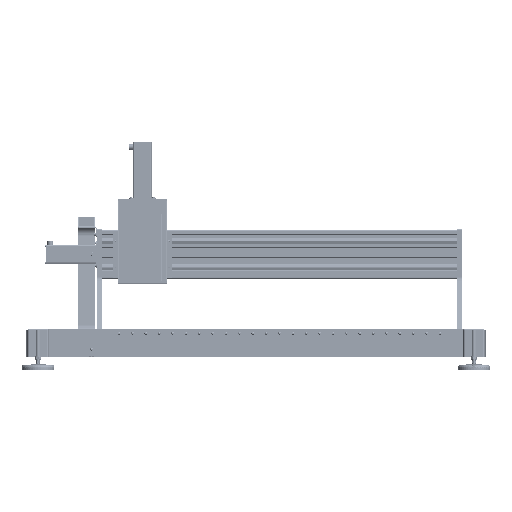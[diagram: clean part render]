
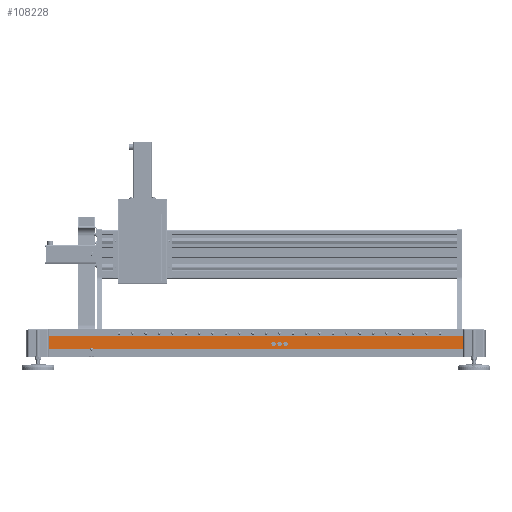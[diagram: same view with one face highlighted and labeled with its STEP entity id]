
A CAD part, top view. The second image highlights one B-rep face of the part: STEP entity #108228.
In plain terms, the highlighted planar face has unit normal (0, 0, 1).
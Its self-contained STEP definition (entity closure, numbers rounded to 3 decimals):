
#1757 = DIRECTION ( 'NONE',  ( 1., 0., 0. ) ) ;
#7940 = CARTESIAN_POINT ( 'NONE',  ( 88., 96., 891. ) ) ;
#25509 = CARTESIAN_POINT ( 'NONE',  ( 775., 124.7, 891. ) ) ;
#37557 = CARTESIAN_POINT ( 'NONE',  ( 94., 96., 891. ) ) ;
#39878 = EDGE_LOOP ( 'NONE', ( #226831 ) ) ;
#55976 = DIRECTION ( 'NONE',  ( 1., 0., 0. ) ) ;
#59882 = EDGE_CURVE ( 'NONE', #422074, #476441, #449475, .T. ) ;
#63458 = ORIENTED_EDGE ( 'NONE', *, *, #171634, .T. ) ;
#81825 = CARTESIAN_POINT ( 'NONE',  ( 775., 50., 891. ) ) ;
#92655 = DIRECTION ( 'NONE',  ( 0., 0., 1. ) ) ;
#108228 = ADVANCED_FACE ( 'NONE', ( #241639, #242732, #241061, #240447 ), #286479, .T. ) ;
#129936 = DIRECTION ( 'NONE',  ( 0., 1., 0. ) ) ;
#130927 = EDGE_LOOP ( 'NONE', ( #360257 ) ) ;
#133586 = VERTEX_POINT ( 'NONE', #264954 ) ;
#140271 = DIRECTION ( 'NONE',  ( -1., 0., 0. ) ) ;
#144740 = DIRECTION ( 'NONE',  ( 0., 1., 0. ) ) ;
#145083 = CARTESIAN_POINT ( 'NONE',  ( 110.5, 96., 891. ) ) ;
#153671 = VERTEX_POINT ( 'NONE', #25509 ) ;
#154928 = CARTESIAN_POINT ( 'NONE',  ( 775., 75.3, 891. ) ) ;
#164547 = DIRECTION ( 'NONE',  ( 0., 0., 1. ) ) ;
#171634 = EDGE_CURVE ( 'NONE', #422074, #153671, #336079, .T. ) ;
#185866 = EDGE_LOOP ( 'NONE', ( #457135 ) ) ;
#193171 = DIRECTION ( 'NONE',  ( 1., 0., 0. ) ) ;
#193269 = AXIS2_PLACEMENT_3D ( 'NONE', #145083, #480208, #193171 ) ;
#203116 = DIRECTION ( 'NONE',  ( -1., 0., 0. ) ) ;
#219719 = EDGE_CURVE ( 'NONE', #290422, #290422, #400167, .T. ) ;
#226831 = ORIENTED_EDGE ( 'NONE', *, *, #453412, .F. ) ;
#235000 = EDGE_CURVE ( 'NONE', #153671, #393522, #559676, .T. ) ;
#240447 = FACE_BOUND ( 'NONE', #185866, .T. ) ;
#241061 = FACE_BOUND ( 'NONE', #39878, .T. ) ;
#241639 = FACE_OUTER_BOUND ( 'NONE', #332633, .T. ) ;
#242732 = FACE_BOUND ( 'NONE', #130927, .T. ) ;
#251556 = VERTEX_POINT ( 'NONE', #328870 ) ;
#253683 = CARTESIAN_POINT ( 'NONE',  ( -775., 75.3, 891. ) ) ;
#259745 = AXIS2_PLACEMENT_3D ( 'NONE', #379496, #92655, #427649 ) ;
#264954 = CARTESIAN_POINT ( 'NONE',  ( -618.487, 75.3, 891. ) ) ;
#286479 = PLANE ( 'NONE',  #522799 ) ;
#288570 = DIRECTION ( 'NONE',  ( 0., 0., 1. ) ) ;
#289576 = ORIENTED_EDGE ( 'NONE', *, *, #59882, .F. ) ;
#290422 = VERTEX_POINT ( 'NONE', #37557 ) ;
#293447 = AXIS2_PLACEMENT_3D ( 'NONE', #451489, #164547, #499745 ) ;
#311953 = VECTOR ( 'NONE', #450306, 1000. ) ;
#313124 = LINE ( 'NONE', #402107, #311953 ) ;
#316119 = VERTEX_POINT ( 'NONE', #474070 ) ;
#328870 = CARTESIAN_POINT ( 'NONE',  ( 71.5, 96., 891. ) ) ;
#332633 = EDGE_LOOP ( 'NONE', ( #399633, #289576, #63458, #508696, #393701, #359789 ) ) ;
#333598 = VECTOR ( 'NONE', #129936, 1000. ) ;
#336079 = LINE ( 'NONE', #81825, #333598 ) ;
#337758 = CIRCLE ( 'NONE', #259745, 3.5 ) ;
#342888 = DIRECTION ( 'NONE',  ( 0., 0., 1. ) ) ;
#359789 = ORIENTED_EDGE ( 'NONE', *, *, #412106, .F. ) ;
#360257 = ORIENTED_EDGE ( 'NONE', *, *, #219719, .F. ) ;
#379496 = CARTESIAN_POINT ( 'NONE',  ( -615., 75., 891. ) ) ;
#381131 = CARTESIAN_POINT ( 'NONE',  ( 775., 124.7, 891. ) ) ;
#389064 = EDGE_CURVE ( 'NONE', #251556, #251556, #412564, .T. ) ;
#393522 = VERTEX_POINT ( 'NONE', #525906 ) ;
#393701 = ORIENTED_EDGE ( 'NONE', *, *, #467823, .F. ) ;
#396498 = LINE ( 'NONE', #479862, #401682 ) ;
#399633 = ORIENTED_EDGE ( 'NONE', *, *, #411891, .F. ) ;
#400167 = CIRCLE ( 'NONE', #473282, 6. ) ;
#401682 = VECTOR ( 'NONE', #144740, 1000. ) ;
#402107 = CARTESIAN_POINT ( 'NONE',  ( 775., 75.3, 891. ) ) ;
#409125 = CIRCLE ( 'NONE', #193269, 6. ) ;
#411891 = EDGE_CURVE ( 'NONE', #476441, #133586, #337758, .T. ) ;
#412106 = EDGE_CURVE ( 'NONE', #133586, #567240, #313124, .T. ) ;
#412564 = CIRCLE ( 'NONE', #293447, 6. ) ;
#422074 = VERTEX_POINT ( 'NONE', #571564 ) ;
#427649 = DIRECTION ( 'NONE',  ( 1., 0., 0. ) ) ;
#447696 = VECTOR ( 'NONE', #203116, 1000. ) ;
#449475 = LINE ( 'NONE', #154928, #447696 ) ;
#450306 = DIRECTION ( 'NONE',  ( -1., 0., 0. ) ) ;
#451489 = CARTESIAN_POINT ( 'NONE',  ( 65.5, 96., 891. ) ) ;
#453412 = EDGE_CURVE ( 'NONE', #316119, #316119, #409125, .T. ) ;
#457135 = ORIENTED_EDGE ( 'NONE', *, *, #389064, .F. ) ;
#467823 = EDGE_CURVE ( 'NONE', #567240, #393522, #396498, .T. ) ;
#469729 = CARTESIAN_POINT ( 'NONE',  ( -611.513, 75.3, 891. ) ) ;
#473282 = AXIS2_PLACEMENT_3D ( 'NONE', #7940, #342888, #55976 ) ;
#474070 = CARTESIAN_POINT ( 'NONE',  ( 116.5, 96., 891. ) ) ;
#476441 = VERTEX_POINT ( 'NONE', #469729 ) ;
#479862 = CARTESIAN_POINT ( 'NONE',  ( -775., 50., 891. ) ) ;
#480208 = DIRECTION ( 'NONE',  ( 0., 0., 1. ) ) ;
#499745 = DIRECTION ( 'NONE',  ( 1., 0., 0. ) ) ;
#508696 = ORIENTED_EDGE ( 'NONE', *, *, #235000, .T. ) ;
#522799 = AXIS2_PLACEMENT_3D ( 'NONE', #527370, #288570, #1757 ) ;
#525906 = CARTESIAN_POINT ( 'NONE',  ( -775., 124.7, 891. ) ) ;
#527370 = CARTESIAN_POINT ( 'NONE',  ( 775., 50., 891. ) ) ;
#558523 = VECTOR ( 'NONE', #140271, 1000. ) ;
#559676 = LINE ( 'NONE', #381131, #558523 ) ;
#567240 = VERTEX_POINT ( 'NONE', #253683 ) ;
#571564 = CARTESIAN_POINT ( 'NONE',  ( 775., 75.3, 891. ) ) ;
